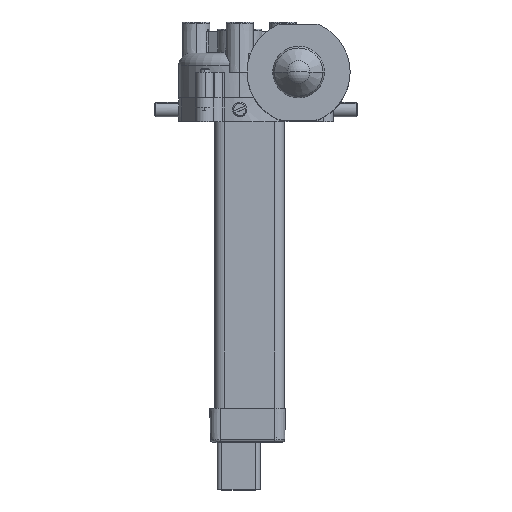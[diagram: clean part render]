
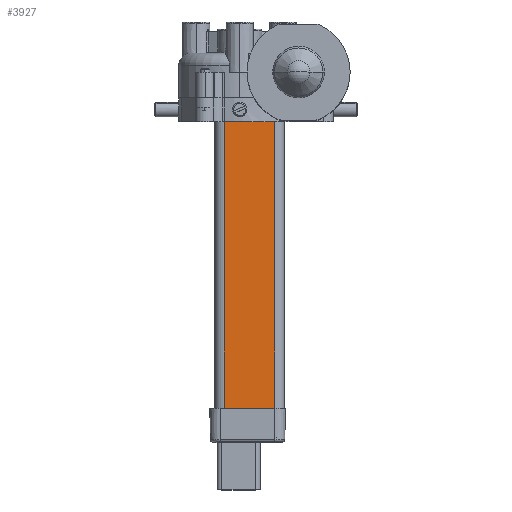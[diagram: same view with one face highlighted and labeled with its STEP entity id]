
A CAD part, top view. The second image highlights one B-rep face of the part: STEP entity #3927.
In plain terms, the highlighted planar face has unit normal (0, 0, 1) as drawn and (1, 0, 0) by its records, which use the part's own axes.
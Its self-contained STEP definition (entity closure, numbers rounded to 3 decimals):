
#3907 = ORIENTED_EDGE ( 'NONE', *, *, #4071, .F. ) ;
#3908 = ORIENTED_EDGE ( 'NONE', *, *, #3924, .T. ) ;
#3924 = EDGE_CURVE ( 'NONE', #4069, #3949, #11751, .T. ) ;
#3927 = ADVANCED_FACE ( 'NONE', ( #11744 ), #11743, .F. ) ;
#3928 = EDGE_LOOP ( 'NONE', ( #3929, #3930, #3907, #3908 ) ) ;
#3929 = ORIENTED_EDGE ( 'NONE', *, *, #3948, .T. ) ;
#3930 = ORIENTED_EDGE ( 'NONE', *, *, #3931, .F. ) ;
#3931 = EDGE_CURVE ( 'NONE', #4072, #3946, #11738, .T. ) ;
#3946 = VERTEX_POINT ( 'NONE', #11664 ) ;
#3948 = EDGE_CURVE ( 'NONE', #3949, #3946, #11663, .T. ) ;
#3949 = VERTEX_POINT ( 'NONE', #11659 ) ;
#4069 = VERTEX_POINT ( 'NONE', #11861 ) ;
#4071 = EDGE_CURVE ( 'NONE', #4069, #4072, #11860, .T. ) ;
#4072 = VERTEX_POINT ( 'NONE', #11856 ) ;
#11659 = CARTESIAN_POINT ( 'NONE',  ( 12.5, -10.5, 0. ) ) ;
#11660 = DIRECTION ( 'NONE',  ( 0., 1., 0. ) ) ;
#11661 = VECTOR ( 'NONE', #11660, 1000. ) ;
#11662 = CARTESIAN_POINT ( 'NONE',  ( 12.5, 10.5, 0. ) ) ;
#11663 = LINE ( 'NONE', #11662, #11661 ) ;
#11664 = CARTESIAN_POINT ( 'NONE',  ( 12.5, 10.5, 0. ) ) ;
#11735 = DIRECTION ( 'NONE',  ( 0., 0., -1. ) ) ;
#11736 = VECTOR ( 'NONE', #11735, 1000. ) ;
#11737 = CARTESIAN_POINT ( 'NONE',  ( 12.5, 10.5, 141.5 ) ) ;
#11738 = LINE ( 'NONE', #11737, #11736 ) ;
#11739 = DIRECTION ( 'NONE',  ( 0., 0., 1. ) ) ;
#11740 = DIRECTION ( 'NONE',  ( -1., 0., 0. ) ) ;
#11741 = CARTESIAN_POINT ( 'NONE',  ( 12.5, 10.5, 141.5 ) ) ;
#11742 = AXIS2_PLACEMENT_3D ( 'NONE', #11741, #11740, #11739 ) ;
#11743 = PLANE ( 'NONE',  #11742 ) ;
#11744 = FACE_OUTER_BOUND ( 'NONE', #3928, .T. ) ;
#11745 = DIRECTION ( 'NONE',  ( 0., 0., -1. ) ) ;
#11746 = VECTOR ( 'NONE', #11745, 1000. ) ;
#11747 = CARTESIAN_POINT ( 'NONE',  ( 12.5, -10.5, 141.5 ) ) ;
#11751 = LINE ( 'NONE', #11747, #11746 ) ;
#11856 = CARTESIAN_POINT ( 'NONE',  ( 12.5, 10.5, 141.5 ) ) ;
#11857 = DIRECTION ( 'NONE',  ( 0., 1., 0. ) ) ;
#11858 = VECTOR ( 'NONE', #11857, 1000. ) ;
#11859 = CARTESIAN_POINT ( 'NONE',  ( 12.5, 10.5, 141.5 ) ) ;
#11860 = LINE ( 'NONE', #11859, #11858 ) ;
#11861 = CARTESIAN_POINT ( 'NONE',  ( 12.5, -10.5, 141.5 ) ) ;
